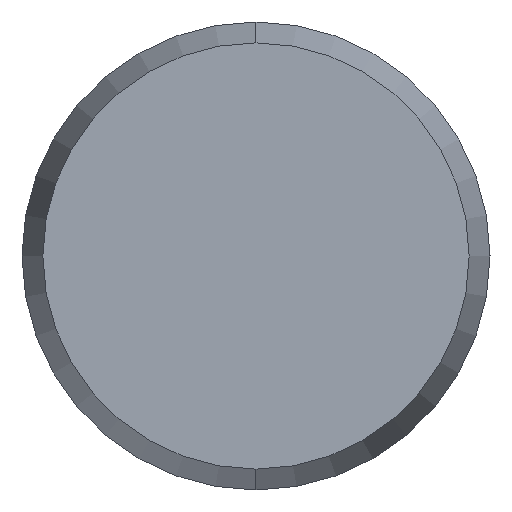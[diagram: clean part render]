
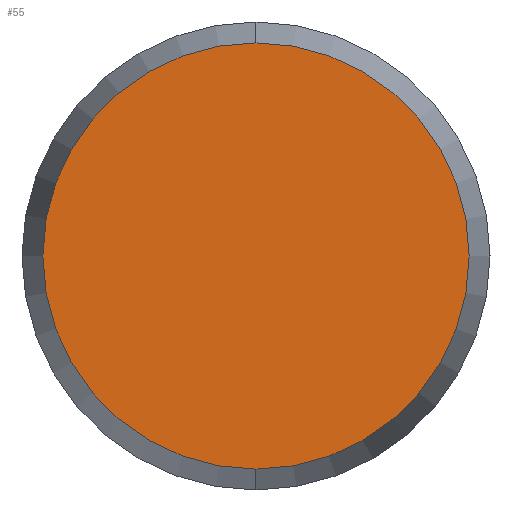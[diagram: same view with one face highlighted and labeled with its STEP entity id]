
A CAD part, left-side view. The second image highlights one B-rep face of the part: STEP entity #55.
In plain terms, the highlighted planar face has unit normal (-1, 0, 0).
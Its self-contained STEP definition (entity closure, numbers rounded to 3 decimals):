
#31 = DIRECTION ( 'NONE',  ( 0., 0., -1. ) ) ;
#32 = DIRECTION ( 'NONE',  ( 1., 0., 0. ) ) ;
#33 = CARTESIAN_POINT ( 'NONE',  ( -35., 0., 0. ) ) ;
#34 = AXIS2_PLACEMENT_3D ( 'NONE', #33, #32, #31 ) ;
#35 = CIRCLE ( 'NONE', #34, 2.732 ) ;
#47 = DIRECTION ( 'NONE',  ( 0., 0., -1. ) ) ;
#48 = DIRECTION ( 'NONE',  ( 1., 0., 0. ) ) ;
#49 = CARTESIAN_POINT ( 'NONE',  ( -35., 0., 0. ) ) ;
#50 = AXIS2_PLACEMENT_3D ( 'NONE', #49, #48, #47 ) ;
#52 = PLANE ( 'NONE',  #50 ) ;
#53 = FACE_OUTER_BOUND ( 'NONE', #56, .T. ) ;
#55 = ADVANCED_FACE ( 'NONE', ( #53 ), #52, .F. ) ;
#56 = EDGE_LOOP ( 'NONE', ( #57, #58 ) ) ;
#57 = ORIENTED_EDGE ( 'NONE', *, *, #175, .F. ) ;
#58 = ORIENTED_EDGE ( 'NONE', *, *, #141, .F. ) ;
#83 = CARTESIAN_POINT ( 'NONE',  ( -35., 0., 2.732 ) ) ;
#85 = CARTESIAN_POINT ( 'NONE',  ( -35., 0., -2.732 ) ) ;
#86 = DIRECTION ( 'NONE',  ( 0., 0., -1. ) ) ;
#87 = DIRECTION ( 'NONE',  ( 1., 0., 0. ) ) ;
#88 = CARTESIAN_POINT ( 'NONE',  ( -35., 0., 0. ) ) ;
#89 = AXIS2_PLACEMENT_3D ( 'NONE', #88, #87, #86 ) ;
#90 = CIRCLE ( 'NONE', #89, 2.732 ) ;
#141 = EDGE_CURVE ( 'NONE', #176, #159, #35, .T. ) ;
#159 = VERTEX_POINT ( 'NONE', #83 ) ;
#175 = EDGE_CURVE ( 'NONE', #159, #176, #90, .T. ) ;
#176 = VERTEX_POINT ( 'NONE', #85 ) ;
